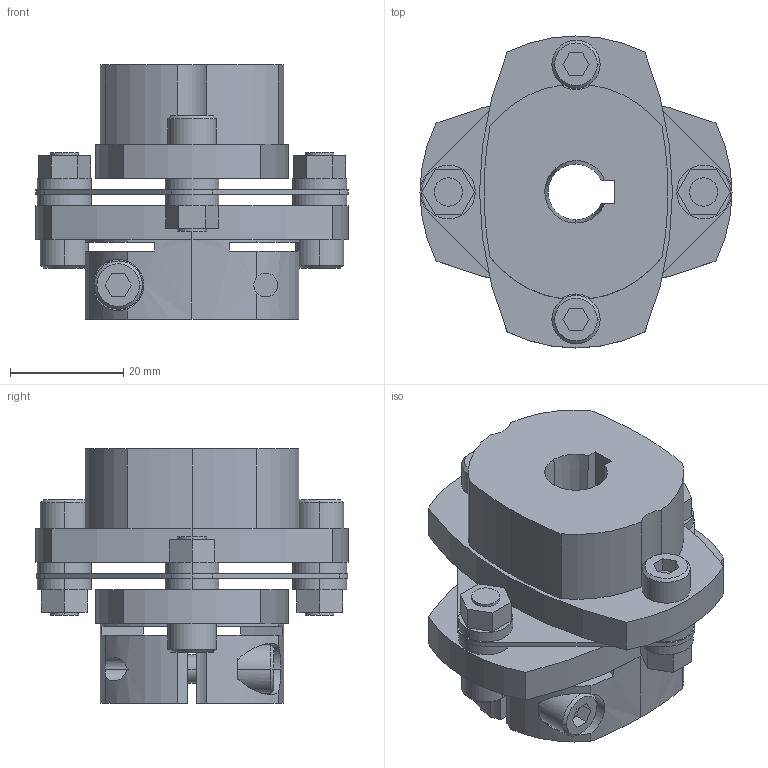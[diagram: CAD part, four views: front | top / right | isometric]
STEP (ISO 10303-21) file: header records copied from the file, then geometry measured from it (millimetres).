
FILE_DESCRIPTION((''),'2;1');
FILE_NAME('LCS-55M-11L亊19B.stp','2011-08-20T15:36:26',(''),(''),'AutoCAD STEP 2000i','AutoCAD 2000i',', , ');
FILE_SCHEMA(('CONFIG_CONTROL_DESIGN'));
Length unit declared in the file: millimetre
Products named in the file (8): LCS-55M-11L×17B; 忣兜1; LC55M-L011; LC55-B017-1; LC55-B017; LC55-B010-1; LC55-B010; LCS55-ITA
Assembly tree (8 placements, depth 2):
  LCS-55M-11L×17B
    忣兜1
    LC55M-L011  x2
    LC55-B017-1
    LC55-B017
    LC55-B010-1
    LC55-B010
    LCS55-ITA
Bounding box: 55 x 55 x 44.8 mm (x, y, z)
Volume: 43092.4 mm3; surface area: 18790.5 mm2
Topology: 1 solids, 1 shells, 242 faces, 616 edges, 404 vertices
Faces by surface type: plane 117, cylinder 104, cone 21
Entity records: 7827 total; most frequent: CARTESIAN_POINT 1555, DIRECTION 1340, ORIENTED_EDGE 1232, EDGE_CURVE 616, AXIS2_PLACEMENT_3D 495, VERTEX_POINT 404, VECTOR 350, LINE 350
